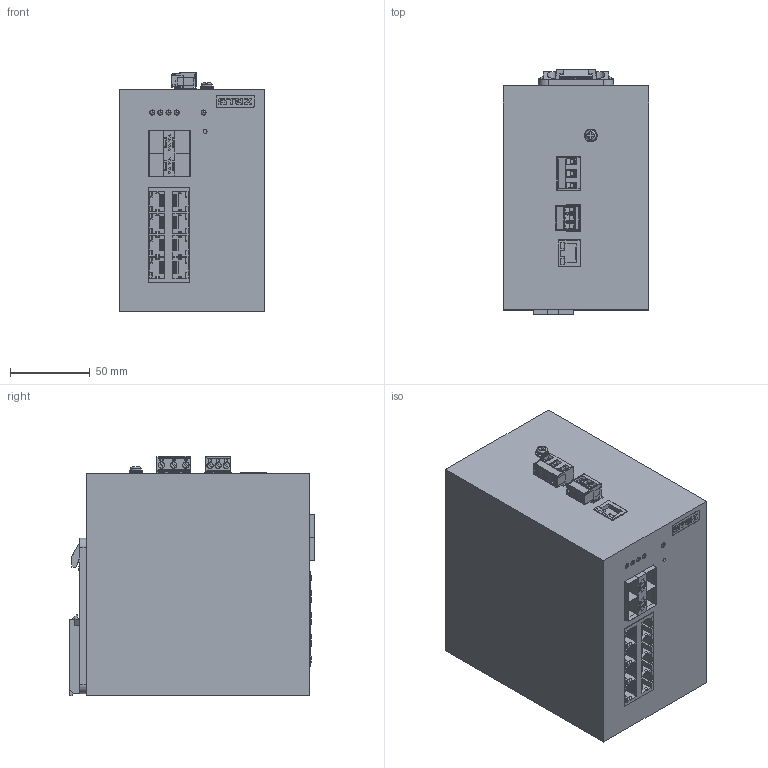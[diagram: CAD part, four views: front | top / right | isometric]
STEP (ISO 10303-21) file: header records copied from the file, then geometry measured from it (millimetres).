
FILE_DESCRIPTION(('TFLEX Exchange Step'),'2;1');
FILE_NAME('70100002_STEZ3000-8G-4GSFP-24.stp', '2025-08-27T10:10:55+03:00',('YLedovskikh'),('Unknown organisation'),'TFLEX Exchange 2023.2','T-FLEX CAD','Unknown authorisation');
FILE_SCHEMA( ('AUTOMOTIVE_DESIGN { 1 0 10303 214 1 1 1 1 }') );
Length unit declared in the file: millimetre
Products named in the file (1): Тело_1 :1
Bounding box: 91 x 153.5 x 149.73 mm (x, y, z)
Volume: 1777423.5 mm3; surface area: 124322.1 mm2
Topology: 1 solids, 18 shells, 2466 faces, 6865 edges, 4503 vertices
Faces by surface type: plane 1960, cylinder 304, bspline 160, extrusion 16, sphere 15, torus 8, cone 3
Full cylindrical faces by diameter (mm): 1.3 x6, 1.33 x3, 2 x1, 2.4 x1, 3 x7, 3.15 x2, 3.2 x5, 3.821 x6, 4 x7, 4.2 x1, 4.4 x1, 6.8 x1, 8.1 x2
Entity records: 80283 total; most frequent: CARTESIAN_POINT 16803, ORIENTED_EDGE 13702, DIRECTION 11749, EDGE_CURVE 6851, VECTOR 5581, LINE 5565, VERTEX_POINT 4503, AXIS2_PLACEMENT_3D 3084
